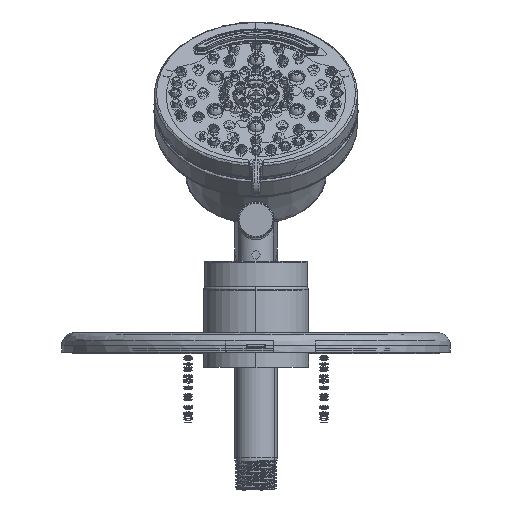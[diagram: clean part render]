
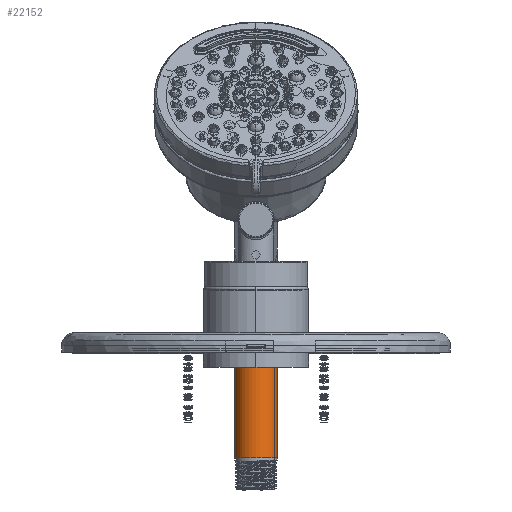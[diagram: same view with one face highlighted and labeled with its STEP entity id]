
A CAD part, front view. The second image highlights one B-rep face of the part: STEP entity #22152.
In plain terms, the highlighted cylindrical face has radius 10.325 mm (diameter 20.65 mm), a partial arc.
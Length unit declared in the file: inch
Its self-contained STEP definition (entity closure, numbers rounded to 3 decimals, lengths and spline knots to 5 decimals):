
#30 = CYLINDRICAL_SURFACE ( 'NONE', #41732, 0.4065 ) ;
#602 = DIRECTION ( 'NONE',  ( -1., 0., 0. ) ) ;
#6010 = ORIENTED_EDGE ( 'NONE', *, *, #8493, .F. ) ;
#6279 = EDGE_CURVE ( 'NONE', #104477, #103762, #6572, .T. ) ;
#6572 = LINE ( 'NONE', #30648, #64919 ) ;
#7615 = DIRECTION ( 'NONE',  ( 0., 0., 1. ) ) ;
#8187 = DIRECTION ( 'NONE',  ( 0., 0., 1. ) ) ;
#8493 = EDGE_CURVE ( 'NONE', #104477, #69266, #33566, .T. ) ;
#11224 = DIRECTION ( 'NONE',  ( 0., 0., -1. ) ) ;
#15112 = DIRECTION ( 'NONE',  ( 1., 0., 0. ) ) ;
#22152 = ADVANCED_FACE ( 'NONE', ( #105977 ), #30, .T. ) ;
#23994 = VECTOR ( 'NONE', #11224, 39.37008 ) ;
#29292 = ORIENTED_EDGE ( 'NONE', *, *, #69039, .F. ) ;
#30648 = CARTESIAN_POINT ( 'NONE',  ( 1.56217, 48.73254, 5.155 ) ) ;
#31731 = CIRCLE ( 'NONE', #71986, 0.4065 ) ;
#33566 = CIRCLE ( 'NONE', #112177, 0.4065 ) ;
#35865 = LINE ( 'NONE', #105694, #23994 ) ;
#36537 = ORIENTED_EDGE ( 'NONE', *, *, #53466, .F. ) ;
#41153 = DIRECTION ( 'NONE',  ( 0., 0., 1. ) ) ;
#41486 = CARTESIAN_POINT ( 'NONE',  ( 1.96867, 48.73254, 5.155 ) ) ;
#41732 = AXIS2_PLACEMENT_3D ( 'NONE', #94598, #71113, #602 ) ;
#43646 = CARTESIAN_POINT ( 'NONE',  ( 1.56217, 48.73254, 2.795 ) ) ;
#43768 = VERTEX_POINT ( 'NONE', #81294 ) ;
#45086 = ORIENTED_EDGE ( 'NONE', *, *, #108524, .T. ) ;
#47463 = DIRECTION ( 'NONE',  ( 1., 0., 0. ) ) ;
#51189 = DIRECTION ( 'NONE',  ( 1., 0., 0. ) ) ;
#53466 = EDGE_CURVE ( 'NONE', #69266, #112069, #54714, .T. ) ;
#54714 = CIRCLE ( 'NONE', #59936, 0.4065 ) ;
#56372 = EDGE_LOOP ( 'NONE', ( #29292, #36537, #6010, #58796, #45086 ) ) ;
#57230 = CARTESIAN_POINT ( 'NONE',  ( 1.96867, 48.73254, 2.795 ) ) ;
#58689 = CARTESIAN_POINT ( 'NONE',  ( 1.96867, 48.73254, 5.155 ) ) ;
#58796 = ORIENTED_EDGE ( 'NONE', *, *, #6279, .T. ) ;
#59936 = AXIS2_PLACEMENT_3D ( 'NONE', #58689, #7615, #15112 ) ;
#64919 = VECTOR ( 'NONE', #101070, 39.37008 ) ;
#69039 = EDGE_CURVE ( 'NONE', #112069, #43768, #35865, .T. ) ;
#69266 = VERTEX_POINT ( 'NONE', #105287 ) ;
#71113 = DIRECTION ( 'NONE',  ( 0., 0., -1. ) ) ;
#71986 = AXIS2_PLACEMENT_3D ( 'NONE', #57230, #41153, #47463 ) ;
#73731 = CARTESIAN_POINT ( 'NONE',  ( 1.56217, 48.73254, 5.155 ) ) ;
#81294 = CARTESIAN_POINT ( 'NONE',  ( 2.37517, 48.73254, 2.795 ) ) ;
#87303 = CARTESIAN_POINT ( 'NONE',  ( 2.37517, 48.73254, 5.155 ) ) ;
#94598 = CARTESIAN_POINT ( 'NONE',  ( 1.96867, 48.73254, 5.155 ) ) ;
#101070 = DIRECTION ( 'NONE',  ( 0., 0., -1. ) ) ;
#103762 = VERTEX_POINT ( 'NONE', #43646 ) ;
#104477 = VERTEX_POINT ( 'NONE', #73731 ) ;
#105287 = CARTESIAN_POINT ( 'NONE',  ( 1.96867, 48.32604, 5.155 ) ) ;
#105694 = CARTESIAN_POINT ( 'NONE',  ( 2.37517, 48.73254, 5.155 ) ) ;
#105977 = FACE_OUTER_BOUND ( 'NONE', #56372, .T. ) ;
#108524 = EDGE_CURVE ( 'NONE', #103762, #43768, #31731, .T. ) ;
#112069 = VERTEX_POINT ( 'NONE', #87303 ) ;
#112177 = AXIS2_PLACEMENT_3D ( 'NONE', #41486, #8187, #51189 ) ;
